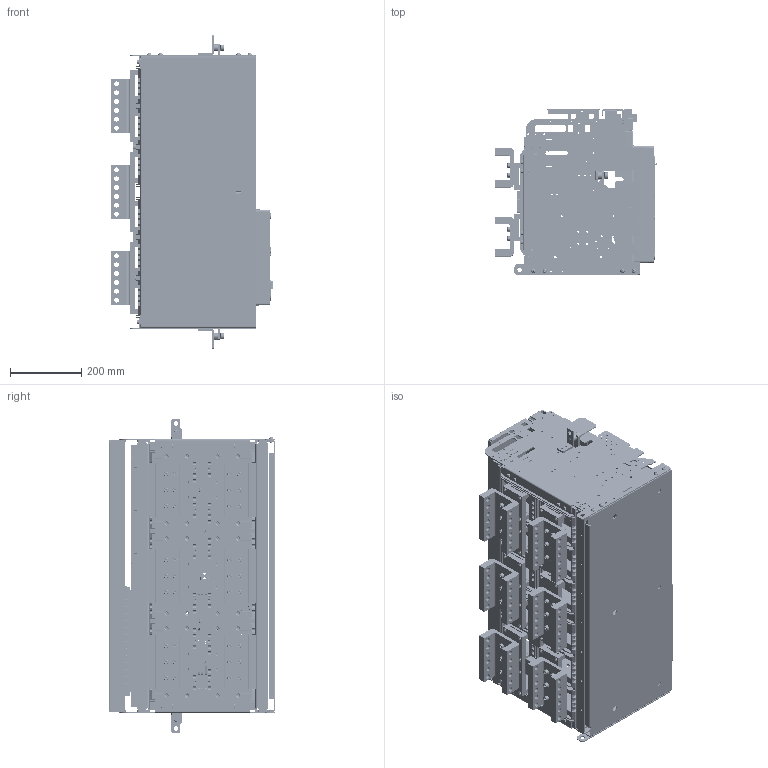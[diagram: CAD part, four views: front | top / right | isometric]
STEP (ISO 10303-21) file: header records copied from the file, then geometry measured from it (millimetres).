
FILE_DESCRIPTION((''),'2;1');
FILE_NAME('HG_27_D503_633H_ASM_ASM','2019-03-27T',('HHI'),(''),'PRO/ENGINEER BY PARAMETRIC TECHNOLOGY CORPORATION, 2012453','PRO/ENGINEER BY PARAMETRIC TECHNOLOGY CORPORATION, 2012453','');
FILE_SCHEMA(('CONFIG_CONTROL_DESIGN'));
Products named in the file (57): PRT0494; ASM0135_ASM; PRT0495; PRT0496; PRT0497; ASM0136_ASM; PRT0498; PRT0499; ASM0138_ASM; ASM0137_ASM; PRT0500; PRT0501; ASM0139_ASM; PRT0502; PRT0503; ASM0140_ASM; PRT0504; 4AT-06870_2; ASM0141_ASM; PRT0505; PRT0506; PRT0507; 3AT-05294_ASM_2_ASM; PRT0508; 3AT-05296_ASM_2_ASM; 3AT-05282S02_1; PRT0509; PRT0510; PRT0511; PRT0512; PRT0513; ASM0142_ASM; PRT0514; PRT0515; FIX_BLOCK_CRADLE_6; BOLT_5; ASM0143_ASM; PRT0516; PRT0517; PRT0519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
Assembly tree (173 placements, depth 6):
  HG_27_D503_633H_ASM_ASM
    D633H_ASM_3_ASM
      ASM0135_ASM
        PRT0494
      PRT0495
      PRT0496  x4
      ASM0136_ASM
        PRT0497
      ASM0137_ASM
        PRT0498
        ASM0138_ASM
          PRT0499
      ASM0139_ASM
        PRT0500
        PRT0501  x8
      ASM0140_ASM  x2
        PRT0502
        PRT0503
      ASM0141_ASM
        PRT0504
        4AT-06870_2  x6
      PRT0505  x8
      PRT0506  x24
      3AT-05294_ASM_2_ASM  x4
        PRT0507
      3AT-05296_ASM_2_ASM  x2
        PRT0508
      3AT-05282S02_1  x6
      PRT0509  x36
      ASM0142_ASM
        PRT0510
        PRT0511
        PRT0512
        PRT0513
      ASM0143_ASM
        PRT0514
        PRT0515
        FIX_BLOCK_CRADLE_6
        BOLT_5
      PRT0516
      ASM0144_ASM
        ASM0145_ASM
          PRT0517
          ASM0146_ASM
            PRT0519
            PRT0520
            PRT0521
            PRT0522
          ASM0147_ASM
            PRT0523
            PRT0524
            PRT0525
          PRT0528
        PRT0529
    HG_FRONT_COVER_40
    4AT-06477S03
    4AT-06477S04
Bounding box: 453.03 x 466.35 x 878.2 mm (x, y, z)
Volume: 12695984.2 mm3; surface area: 6049810.3 mm2
Topology: 185 solids, 298 shells, 20759 faces, 59022 edges, 38329 vertices
Faces by surface type: plane 14398, cylinder 4866, cone 652, torus 377, sphere 202, extrusion 141, bspline 123
Entity records: 509812 total; most frequent: CARTESIAN_POINT 97792, ORIENTED_EDGE 88262, DIRECTION 81386, EDGE_CURVE 44309, VECTOR 36524, LINE 36383, VERTEX_POINT 28936, AXIS2_PLACEMENT_3D 22431
